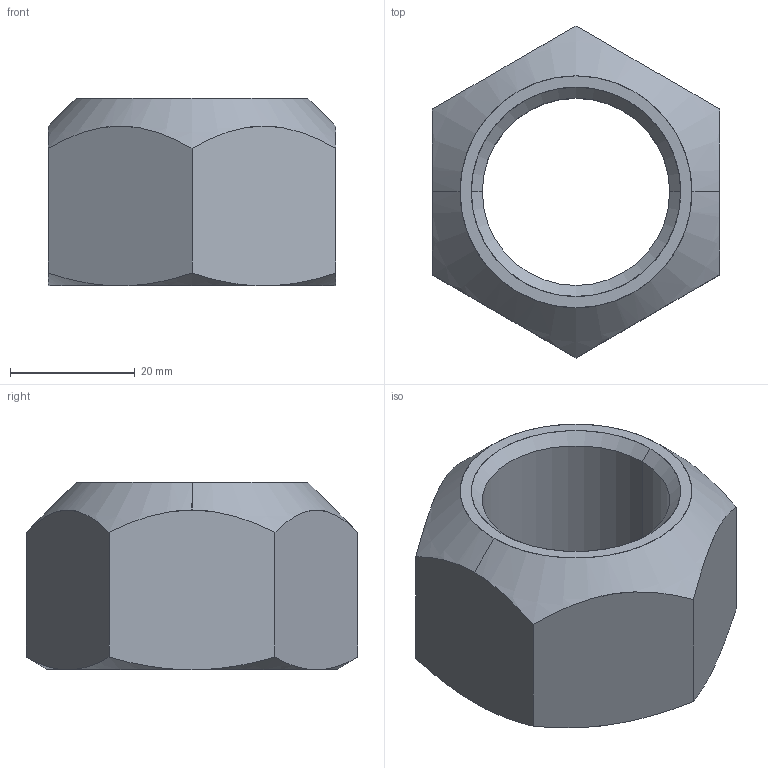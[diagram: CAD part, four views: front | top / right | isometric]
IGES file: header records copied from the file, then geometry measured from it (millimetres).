
Start section: SolidWorks IGES file using analytic representation for surfaces
Global section: file name: C:\Users\liam_\OneDrive\Documents\WORK\Work for WixRoyd\Job Files\J-00021 - Matt Davis CAD Checking\04. CAD Drawings\automotion20190729\P0308.ZP_v2\P0308.ZP_v2_20190913_IGES\P0308.300-ZP.igs; native system: SolidWorks 2017; preprocessor: SolidWorks 2017; author: liam_; date: 190913.214543; units: millimetre
Bounding box: 46 x 53.12 x 30 mm (x, y, z)
Surface area: 9000.4 mm2 (no closed solid volume)
Topology: 0 solids, 0 shells, 22 faces, 504 edges, 504 vertices
Faces by surface type: revolution 14, bspline 8
